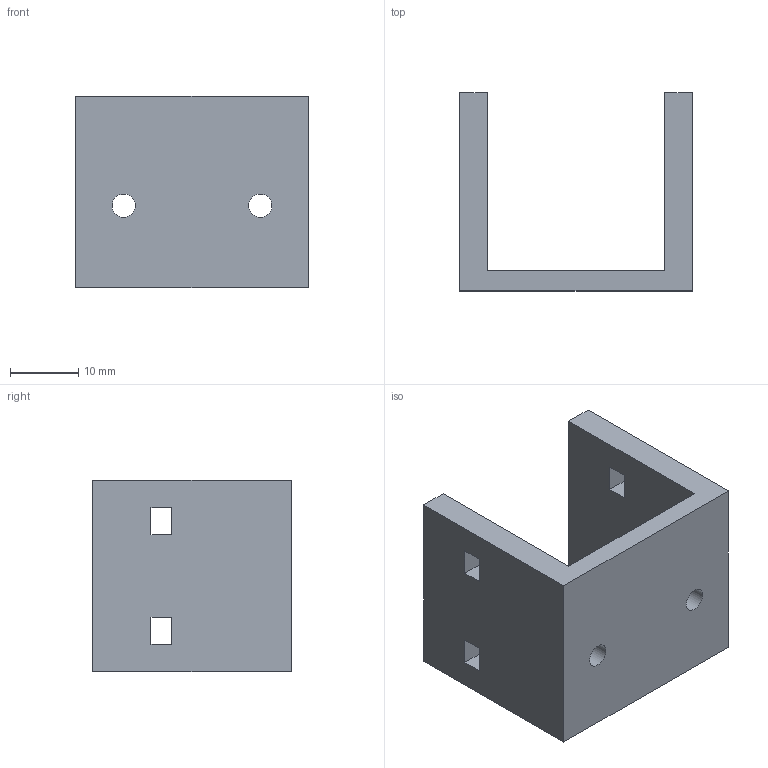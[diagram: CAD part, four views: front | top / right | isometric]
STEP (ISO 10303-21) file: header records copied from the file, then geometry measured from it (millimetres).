
FILE_DESCRIPTION(('Open CASCADE Model'),'2;1');
FILE_NAME('Open CASCADE Shape Model','2026-09-11T00:16:42',('Author'),( 'Open CASCADE'),'Open CASCADE STEP processor 7.9','Open CASCADE 7.9' ,'Unknown');
FILE_SCHEMA(('AUTOMOTIVE_DESIGN { 1 0 10303 214 1 1 1 1 }'));
Length unit declared in the file: millimetre
Products named in the file (1): Open CASCADE STEP translator 7.9 28
Bounding box: 34 x 29 x 28 mm (x, y, z)
Volume: 8433.5 mm3; surface area: 5759.8 mm2
Topology: 1 solids, 1 shells, 28 faces, 78 edges, 52 vertices
Faces by surface type: plane 26, cylinder 2
Full cylindrical faces by diameter (mm): 3.4 x2
Entity records: 1934 total; most frequent: CARTESIAN_POINT 315, DIRECTION 296, LINE 226, VECTOR 226, ORIENTED_EDGE 156, PCURVE 156, DEFINITIONAL_REPRESENTATION 156, EDGE_CURVE 78
